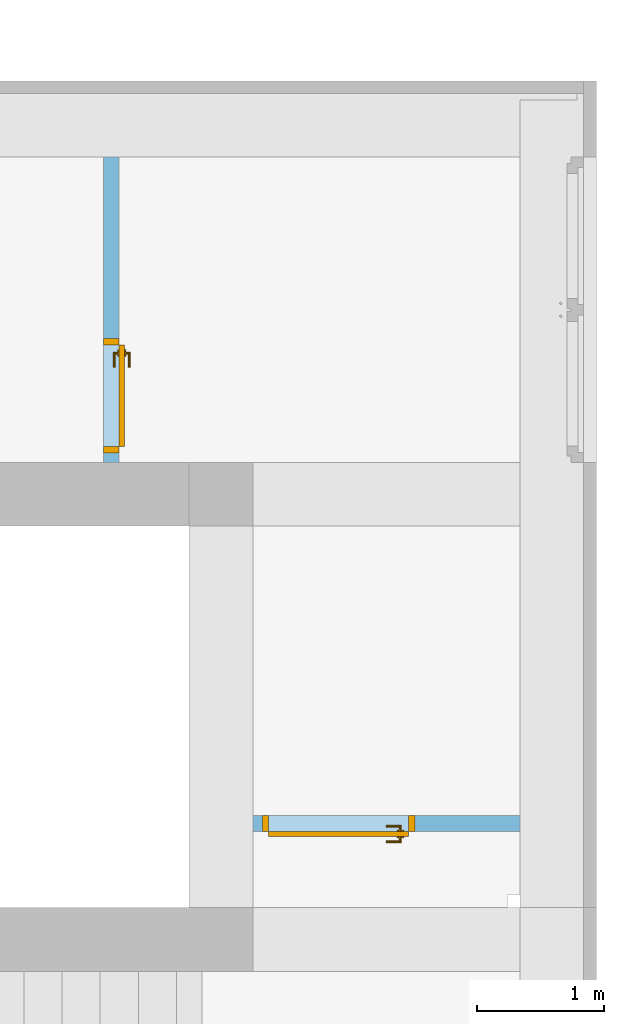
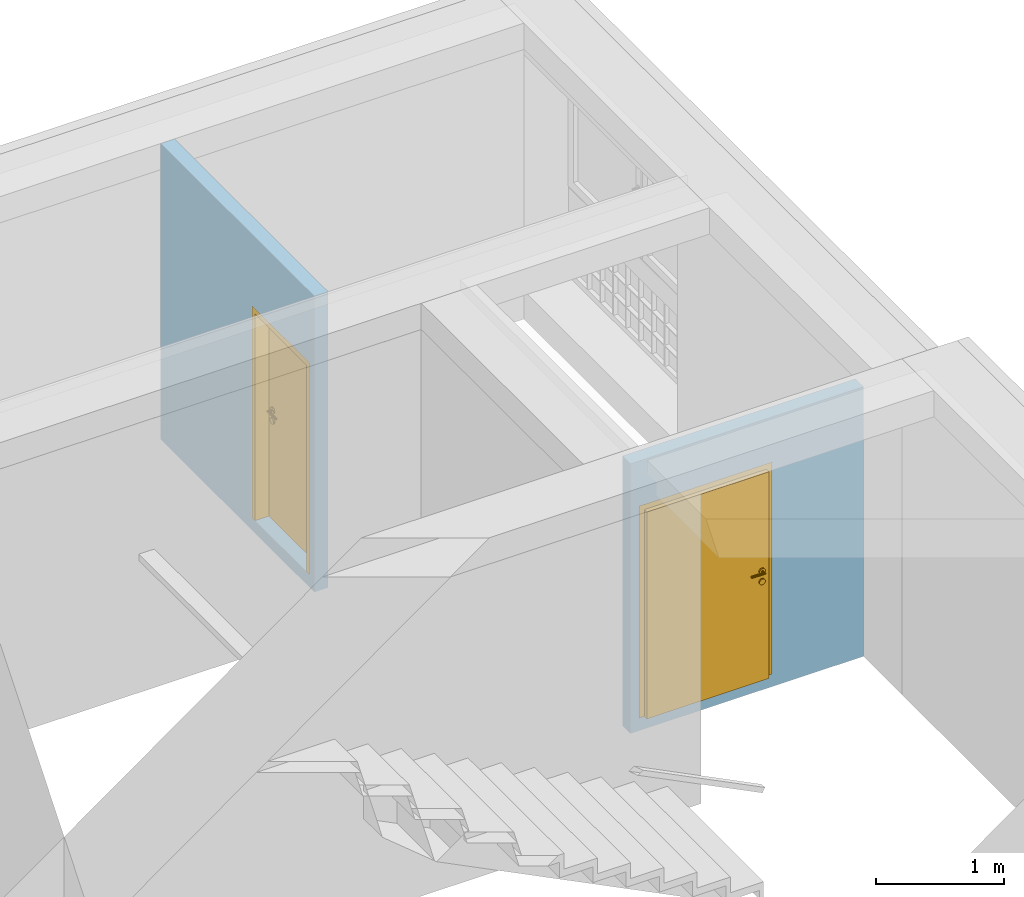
# One storey, part 13 of 27: 2 doors, 2 openings, plus 2 elements that do not belong to this part.
"""IFC4 building model written with IfcOpenShell, lengths in metres."""

from ifc_helpers import new_model, entity, si_unit, converted_unit, derived_unit, frame, frame_2d, origin, origin_with_axes, place, context, subcontext, project, spatial, polyline, rectangle, outline, extrude, closed_shell, open_shell, surface_model, source, transform, mapped, material, layer, layer_set, layer_usage, type_object, element, fill, save


model = new_model("IFC4")

# Units and contexts
model_context = context("Model", 3, precision=1e-05, world=origin())
body_context = subcontext(model_context, "Body", "Model", "MODEL_VIEW")
ifc_project = project(units=[si_unit("LENGTHUNIT", "METRE"), si_unit("AREAUNIT", "SQUARE_METRE"), si_unit("VOLUMEUNIT", "CUBIC_METRE"), si_unit("MASSUNIT", "GRAM", prefix="KILO"), converted_unit("PLANEANGLEUNIT", "DEGREE", entity("IfcPlaneAngleMeasure", 0.0174532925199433), si_unit("PLANEANGLEUNIT", "RADIAN"), dimensions=[0, 0, 0, 0, 0, 0, 0]), derived_unit("THERMALTRANSMITTANCEUNIT", [(si_unit("POWERUNIT", "WATT"), 1), (si_unit("THERMODYNAMICTEMPERATUREUNIT", "KELVIN"), -1), (si_unit("LENGTHUNIT", "METRE"), -2)]), derived_unit("VOLUMETRICFLOWRATEUNIT", [(si_unit("LENGTHUNIT", "METRE"), 3), (converted_unit("TIMEUNIT", "hour", entity("IfcTimeMeasure", 3600.0), si_unit("TIMEUNIT", "SECOND"), dimensions=[0, 0, 1, 0, 0, 0, 0]), -1), (si_unit("LENGTHUNIT", "METRE"), -1)])], contexts=[model_context])

# Site, building, storey
site_placement = place(None, origin())
site = spatial("IfcSite", under=ifc_project, at=site_placement, Name="3. ASŘ", CompositionType="ELEMENT")
building_placement = place(site_placement, origin())
building = spatial("IfcBuilding", under=site, at=building_placement, Name="Pavilon C", CompositionType="ELEMENT")
storey_placement = place(building_placement, frame((0.0, 0.0, 10.5)))
storey = spatial("IfcBuildingStorey", under=building, at=storey_placement, Name="Půdorys 4.NP", CompositionType="ELEMENT", Elevation=10.5)

# Wall, opening, door
ifc_material_1 = material(Name="ZDIVO Z CDm")
ifc_layer_1 = layer(ifc_material_1, 0.125)
ifc_layer_set_1 = layer_set([ifc_layer_1])
ifc_layer_usage_1 = layer_usage(ifc_layer_set_1, "AXIS2", "POSITIVE", 0.0)
wall_1_placement = place(storey_placement, frame((-4.79999999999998, 10.35, -0.42), z_axis=(0.0, 0.0, 1.0), x_axis=(0.0, -1.0, 0.0)))
wall_1 = element("IfcWall", 1, at=wall_1_placement, inside=storey, material=ifc_layer_usage_1, Name="ZDIVO Z CDm", context=body_context, shape_type="SweptSolid", body=[
    extrude(rectangle(XDim=2.4, YDim=0.125, at=frame_2d((1.2, 0.0625), x_axis=(1.0, 0.0))), origin_with_axes(), (0.0, 0.0, 1.0), 2.82),
])
opening_1_placement = place(wall_1_placement, frame((2.325, 0.125, 0.12), z_axis=(0.0, -1.0, 0.0), x_axis=(0.0, 0.0, 1.0)))
opening_1 = element("IfcOpeningElement", 2, at=opening_1_placement, cuts=wall_1, Name="Dveřní otvor", ObjectType="Opening", context=body_context, shape_type="SweptSolid", body=[
    extrude(outline(polyline([(0.0, 0.9), (2.02, 0.9), (2.02, 0.0), (0.0, 0.0), (0.0, 0.9)])), origin_with_axes(), (0.0, 0.0, 1.0), 0.125),
])
door_type_1 = type_object("IfcDoorType", Name="D101", OperationType="NOTDEFINED", ParameterTakesPrecedence=False, PredefinedType="DOOR")
shared_shape_1 = source(origin_with_axes(), body_context, "Body", "SurfaceModel", [
    surface_model("IfcShellBasedSurfaceModel", [(0.0, 0.125, 2.02), (0.0, 0.125, -7.65404249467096e-18), (0.05, 0.125, -7.65404249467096e-18), (0.05, 0.125, 2.02), (0.0, 0.0, 7.65404249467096e-18), (0.0, 2.41584530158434e-16, 2.02), (0.05, 2.41584530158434e-16, 2.02), (0.05, 0.0, 7.65404249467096e-18)], [closed_shell([[[0, 1, 2, 3]], [[4, 5, 6, 7]], [[1, 0, 5, 4]], [[2, 1, 4, 7]], [[3, 2, 7, 6]], [[0, 3, 6, 5]]], orient=[[False], [False], [False], [False], [False], [False]])]),
    surface_model("IfcShellBasedSurfaceModel", [(0.85, 0.125, 2.02), (0.85, 0.125, -7.65404249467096e-18), (0.9, 0.125, -7.65404249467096e-18), (0.9, 0.125, 2.02), (0.85, 0.0, 7.65404249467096e-18), (0.85, 2.41584530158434e-16, 2.02), (0.9, 2.41584530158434e-16, 2.02), (0.9, 0.0, 7.65404249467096e-18)], [closed_shell([[[0, 1, 2, 3]], [[4, 5, 6, 7]], [[1, 0, 5, 4]], [[2, 1, 4, 7]], [[3, 2, 7, 6]], [[0, 3, 6, 5]]], orient=[[False], [False], [False], [False], [False], [False]])]),
    surface_model("IfcShellBasedSurfaceModel", [(0.05, 0.125, 2.02), (0.05, 0.125, 1.97), (0.85, 0.125, 1.97), (0.85, 0.125, 2.02), (0.05, 2.41584530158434e-16, 1.97), (0.05, 2.41584530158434e-16, 2.02), (0.85, 2.41584530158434e-16, 2.02), (0.85, 2.41584530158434e-16, 1.97)], [closed_shell([[[0, 1, 2, 3]], [[4, 5, 6, 7]], [[1, 0, 5, 4]], [[2, 1, 4, 7]], [[3, 2, 7, 6]], [[0, 3, 6, 5]]], orient=[[False], [False], [False], [False], [False], [False]])]),
    surface_model("IfcShellBasedSurfaceModel", [(0.05, 0.165, 1.97), (0.05, 0.165, -1.25526296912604e-17), (0.85, 0.165, -1.25526296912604e-17), (0.85, 0.165, 1.97), (0.05, 0.125, -7.65404249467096e-18), (0.05, 0.125, 1.97), (0.85, 0.125, 1.97), (0.85, 0.125, -7.65404249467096e-18)], [closed_shell([[[0, 1, 2, 3]], [[4, 5, 6, 7]], [[1, 0, 5, 4]], [[2, 1, 4, 7]], [[3, 2, 7, 6]], [[0, 3, 6, 5]]], orient=[[False], [False], [False], [False], [False], [False]])]),
    surface_model("IfcShellBasedSurfaceModel", [(0.808815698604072, 0.125, 0.93625), (0.8125, 0.125, 0.95), (0.808815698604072, 0.125, 0.96375), (0.79875, 0.125, 0.973815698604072), (0.785, 0.125, 0.9775), (0.77125, 0.125, 0.973815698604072), (0.761184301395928, 0.125, 0.96375), (0.7575, 0.125, 0.95), (0.761184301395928, 0.125, 0.93625), (0.77125, 0.125, 0.926184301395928), (0.785, 0.125, 0.9225), (0.79875, 0.125, 0.926184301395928), (0.8125, 0.1125, 0.95), (0.808815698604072, 0.1125, 0.93625), (0.79875, 0.1125, 0.926184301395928), (0.785, 0.1125, 0.9225), (0.77125, 0.1125, 0.926184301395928), (0.761184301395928, 0.1125, 0.93625), (0.7575, 0.1125, 0.95), (0.761184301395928, 0.1125, 0.96375), (0.77125, 0.1125, 0.973815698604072), (0.785, 0.1125, 0.9775), (0.79875, 0.1125, 0.973815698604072), (0.808815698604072, 0.1125, 0.96375)], [closed_shell([[[0, 1, 2, 3, 4, 5, 6, 7, 8, 9, 10, 11]], [[12, 13, 14, 15, 16, 17, 18, 19, 20, 21, 22, 23]], [[1, 0, 13, 12]], [[2, 1, 12, 23]], [[3, 2, 23, 22]], [[4, 3, 22, 21]], [[5, 4, 21, 20]], [[6, 5, 20, 19]], [[7, 6, 19, 18]], [[8, 7, 18, 17]], [[9, 8, 17, 16]], [[10, 9, 16, 15]], [[11, 10, 15, 14]], [[0, 11, 14, 13]]], orient=[[False], [False], [False], [False], [False], [False], [False], [False], [False], [False], [False], [False], [False], [False]])]),
    surface_model("IfcShellBasedSurfaceModel", [(0.808815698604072, 0.125, 1.03625), (0.8125, 0.125, 1.05), (0.808815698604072, 0.125, 1.06375), (0.79875, 0.125, 1.07381569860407), (0.785, 0.125, 1.0775), (0.77125, 0.125, 1.07381569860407), (0.761184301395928, 0.125, 1.06375), (0.7575, 0.125, 1.05), (0.761184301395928, 0.125, 1.03625), (0.77125, 0.125, 1.02618430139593), (0.785, 0.125, 1.0225), (0.79875, 0.125, 1.02618430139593), (0.8125, 0.1125, 1.05), (0.808815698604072, 0.1125, 1.03625), (0.79875, 0.1125, 1.02618430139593), (0.785, 0.1125, 1.0225), (0.77125, 0.1125, 1.02618430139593), (0.761184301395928, 0.1125, 1.03625), (0.7575, 0.1125, 1.05), (0.761184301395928, 0.1125, 1.06375), (0.77125, 0.1125, 1.07381569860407), (0.785, 0.1125, 1.0775), (0.79875, 0.1125, 1.07381569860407), (0.808815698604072, 0.1125, 1.06375)], [closed_shell([[[0, 1, 2, 3, 4, 5, 6, 7, 8, 9, 10, 11]], [[12, 13, 14, 15, 16, 17, 18, 19, 20, 21, 22, 23]], [[1, 0, 13, 12]], [[2, 1, 12, 23]], [[3, 2, 23, 22]], [[4, 3, 22, 21]], [[5, 4, 21, 20]], [[6, 5, 20, 19]], [[7, 6, 19, 18]], [[8, 7, 18, 17]], [[9, 8, 17, 16]], [[10, 9, 16, 15]], [[11, 10, 15, 14]], [[0, 11, 14, 13]]], orient=[[False], [False], [False], [False], [False], [False], [False], [False], [False], [False], [False], [False], [False], [False]])]),
    surface_model("IfcShellBasedSurfaceModel", [(0.785, 0.125, 1.06), (0.78, 0.125, 1.05866025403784), (0.776339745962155, 0.125, 1.055), (0.775, 0.125, 1.05), (0.776339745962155, 0.125, 1.045), (0.78, 0.125, 1.04133974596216), (0.785, 0.125, 1.04), (0.79, 0.125, 1.04133974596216), (0.793660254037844, 0.125, 1.045), (0.795, 0.125, 1.05), (0.793660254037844, 0.125, 1.055), (0.79, 0.125, 1.05866025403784), (0.79, 0.0800000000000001, 1.05866025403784), (0.785, 0.0850000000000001, 1.06), (0.793660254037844, 0.0763397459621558, 1.055), (0.795, 0.0750000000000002, 1.05), (0.793660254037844, 0.0763397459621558, 1.045), (0.79, 0.0800000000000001, 1.04133974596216), (0.785, 0.0850000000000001, 1.04), (0.78, 0.0900000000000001, 1.04133974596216), (0.776339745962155, 0.0936602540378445, 1.045), (0.775, 0.0950000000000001, 1.05), (0.776339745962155, 0.0936602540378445, 1.055), (0.78, 0.0900000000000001, 1.05866025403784), (0.67, 0.0800000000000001, 1.05866025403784), (0.67, 0.0850000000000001, 1.06), (0.67, 0.0763397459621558, 1.055), (0.67, 0.0750000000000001, 1.05), (0.67, 0.0763397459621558, 1.045), (0.67, 0.0800000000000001, 1.04133974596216), (0.67, 0.0850000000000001, 1.04), (0.67, 0.0900000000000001, 1.04133974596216), (0.67, 0.0936602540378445, 1.045), (0.67, 0.0950000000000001, 1.05), (0.67, 0.0936602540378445, 1.055), (0.67, 0.0900000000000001, 1.05866025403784)], [open_shell([[[0, 1, 2, 3, 4, 5, 6, 7, 8, 9, 10, 11]], [[0, 11, 12, 13]], [[11, 10, 14, 12]], [[10, 9, 15, 14]], [[9, 8, 16, 15]], [[8, 7, 17, 16]], [[7, 6, 18, 17]], [[6, 5, 19, 18]], [[5, 4, 20, 19]], [[4, 3, 21, 20]], [[3, 2, 22, 21]], [[2, 1, 23, 22]], [[1, 0, 13, 23]], [[13, 12, 24, 25]], [[12, 14, 26, 24]], [[14, 15, 27, 26]], [[15, 16, 28, 27]], [[16, 17, 29, 28]], [[17, 18, 30, 29]], [[18, 19, 31, 30]], [[19, 20, 32, 31]], [[20, 21, 33, 32]], [[21, 22, 34, 33]], [[22, 23, 35, 34]], [[23, 13, 25, 35]]], orient=[[False], [False], [False], [False], [False], [False], [False], [False], [False], [False], [False], [False], [False], [False], [False], [False], [False], [False], [False], [False], [False], [False], [False], [False], [False]])]),
    surface_model("IfcShellBasedSurfaceModel", [(0.808815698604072, 0.165, 0.93625), (0.79875, 0.165, 0.926184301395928), (0.785, 0.165, 0.9225), (0.77125, 0.165, 0.926184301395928), (0.761184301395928, 0.165, 0.93625), (0.7575, 0.165, 0.95), (0.761184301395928, 0.165, 0.96375), (0.77125, 0.165, 0.973815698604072), (0.785, 0.165, 0.9775), (0.79875, 0.165, 0.973815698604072), (0.808815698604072, 0.165, 0.96375), (0.8125, 0.165, 0.95), (0.8125, 0.1775, 0.95), (0.808815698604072, 0.1775, 0.96375), (0.79875, 0.1775, 0.973815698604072), (0.785, 0.1775, 0.9775), (0.77125, 0.1775, 0.973815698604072), (0.761184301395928, 0.1775, 0.96375), (0.7575, 0.1775, 0.95), (0.761184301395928, 0.1775, 0.93625), (0.77125, 0.1775, 0.926184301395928), (0.785, 0.1775, 0.9225), (0.79875, 0.1775, 0.926184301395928), (0.808815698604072, 0.1775, 0.93625)], [closed_shell([[[0, 1, 2, 3, 4, 5, 6, 7, 8, 9, 10, 11]], [[12, 13, 14, 15, 16, 17, 18, 19, 20, 21, 22, 23]], [[11, 12, 23, 0]], [[10, 13, 12, 11]], [[9, 14, 13, 10]], [[8, 15, 14, 9]], [[7, 16, 15, 8]], [[6, 17, 16, 7]], [[5, 18, 17, 6]], [[4, 19, 18, 5]], [[3, 20, 19, 4]], [[2, 21, 20, 3]], [[1, 22, 21, 2]], [[0, 23, 22, 1]]], orient=[[False], [False], [False], [False], [False], [False], [False], [False], [False], [False], [False], [False], [False], [False]])]),
    surface_model("IfcShellBasedSurfaceModel", [(0.808815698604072, 0.165, 1.03625), (0.79875, 0.165, 1.02618430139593), (0.785, 0.165, 1.0225), (0.77125, 0.165, 1.02618430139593), (0.761184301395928, 0.165, 1.03625), (0.7575, 0.165, 1.05), (0.761184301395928, 0.165, 1.06375), (0.77125, 0.165, 1.07381569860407), (0.785, 0.165, 1.0775), (0.79875, 0.165, 1.07381569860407), (0.808815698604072, 0.165, 1.06375), (0.8125, 0.165, 1.05), (0.8125, 0.1775, 1.05), (0.808815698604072, 0.1775, 1.06375), (0.79875, 0.1775, 1.07381569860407), (0.785, 0.1775, 1.0775), (0.77125, 0.1775, 1.07381569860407), (0.761184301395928, 0.1775, 1.06375), (0.7575, 0.1775, 1.05), (0.761184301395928, 0.1775, 1.03625), (0.77125, 0.1775, 1.02618430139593), (0.785, 0.1775, 1.0225), (0.79875, 0.1775, 1.02618430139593), (0.808815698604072, 0.1775, 1.03625)], [closed_shell([[[0, 1, 2, 3, 4, 5, 6, 7, 8, 9, 10, 11]], [[12, 13, 14, 15, 16, 17, 18, 19, 20, 21, 22, 23]], [[11, 12, 23, 0]], [[10, 13, 12, 11]], [[9, 14, 13, 10]], [[8, 15, 14, 9]], [[7, 16, 15, 8]], [[6, 17, 16, 7]], [[5, 18, 17, 6]], [[4, 19, 18, 5]], [[3, 20, 19, 4]], [[2, 21, 20, 3]], [[1, 22, 21, 2]], [[0, 23, 22, 1]]], orient=[[False], [False], [False], [False], [False], [False], [False], [False], [False], [False], [False], [False], [False], [False]])]),
    surface_model("IfcShellBasedSurfaceModel", [(0.785, 0.165, 1.06), (0.79, 0.165, 1.05866025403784), (0.793660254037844, 0.165, 1.055), (0.795, 0.165, 1.05), (0.793660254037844, 0.165, 1.045), (0.79, 0.165, 1.04133974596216), (0.785, 0.165, 1.04), (0.78, 0.165, 1.04133974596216), (0.776339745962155, 0.165, 1.045), (0.775, 0.165, 1.05), (0.776339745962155, 0.165, 1.055), (0.78, 0.165, 1.05866025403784), (0.785, 0.205, 1.06), (0.79, 0.21, 1.05866025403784), (0.793660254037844, 0.213660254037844, 1.055), (0.795, 0.215, 1.05), (0.793660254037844, 0.213660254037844, 1.045), (0.79, 0.21, 1.04133974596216), (0.785, 0.205, 1.04), (0.78, 0.2, 1.04133974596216), (0.776339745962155, 0.196339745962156, 1.045), (0.775, 0.195, 1.05), (0.776339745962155, 0.196339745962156, 1.055), (0.78, 0.2, 1.05866025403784), (0.67, 0.205, 1.06), (0.67, 0.21, 1.05866025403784), (0.67, 0.213660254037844, 1.055), (0.67, 0.215, 1.05), (0.67, 0.213660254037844, 1.045), (0.67, 0.21, 1.04133974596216), (0.67, 0.205, 1.04), (0.67, 0.2, 1.04133974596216), (0.67, 0.196339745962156, 1.045), (0.67, 0.195, 1.05), (0.67, 0.196339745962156, 1.055), (0.67, 0.2, 1.05866025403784)], [open_shell([[[0, 1, 2, 3, 4, 5, 6, 7, 8, 9, 10, 11]], [[0, 12, 13, 1]], [[1, 13, 14, 2]], [[2, 14, 15, 3]], [[3, 15, 16, 4]], [[4, 16, 17, 5]], [[5, 17, 18, 6]], [[6, 18, 19, 7]], [[7, 19, 20, 8]], [[8, 20, 21, 9]], [[9, 21, 22, 10]], [[10, 22, 23, 11]], [[11, 23, 12, 0]], [[12, 24, 25, 13]], [[13, 25, 26, 14]], [[14, 26, 27, 15]], [[15, 27, 28, 16]], [[16, 28, 29, 17]], [[17, 29, 30, 18]], [[18, 30, 31, 19]], [[19, 31, 32, 20]], [[20, 32, 33, 21]], [[21, 33, 34, 22]], [[22, 34, 35, 23]], [[23, 35, 24, 12]]], orient=[[False], [False], [False], [False], [False], [False], [False], [False], [False], [False], [False], [False], [False], [False], [False], [False], [False], [False], [False], [False], [False], [False], [False], [False], [False]])]),
])
door_1_placement = place(opening_1_placement, frame((0.0, -1.81898940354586e-15, 0.124999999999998), z_axis=(1.0, 0.0, 0.0), x_axis=(0.0, 1.0, -2.44929359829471e-16)))
door_1 = element("IfcDoor", 3, at=door_1_placement, inside=storey, type_object=door_type_1, Name="D101", OverallHeight=2.02, OverallWidth=0.9, context=body_context, shape_type="MappedRepresentation", body=[
    mapped(shared_shape_1, transform((0.0, 0.0, 0.0), x_axis=(1.0, 0.0, 0.0), y_axis=(0.0, -1.0, 0.0), z_axis=(0.0, 0.0, 1.0), scale=1.0)),
])
fill(opening_1, door_1)

ifc_material_2 = material(Name="ZDIVO Z CDm")
ifc_layer_2 = layer(ifc_material_2, 0.125000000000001)
ifc_layer_set_2 = layer_set([ifc_layer_2])
ifc_layer_usage_2 = layer_usage(ifc_layer_set_2, "AXIS2", "POSITIVE", 0.0)
wall_2_placement = place(storey_placement, frame((-3.62499999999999, 5.05, -0.42)))
wall_2 = element("IfcWall", 4, at=wall_2_placement, inside=storey, material=ifc_layer_usage_2, Name="ZDIVO Z CDm", context=body_context, shape_type="SweptSolid", body=[
    extrude(rectangle(XDim=2.1, YDim=0.125000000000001, at=frame_2d((1.05, 0.0625000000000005), x_axis=(1.0, 0.0))), origin_with_axes(), (0.0, 0.0, 1.0), 2.57),
])
opening_2_placement = place(wall_2_placement, frame((0.075, 0.0, 0.12), z_axis=(0.0, 1.0, 0.0), x_axis=(0.0, 0.0, 1.0)))
opening_2 = element("IfcOpeningElement", 5, at=opening_2_placement, cuts=wall_2, Name="Dveřní otvor", ObjectType="Opening", context=body_context, shape_type="SweptSolid", body=[
    extrude(outline(polyline([(0.0, 1.2), (2.02, 1.2), (2.02, 0.0), (0.0, 0.0), (0.0, 1.2)])), origin_with_axes(), (0.0, 0.0, 1.0), 0.125000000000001),
])
door_type_2 = type_object("IfcDoorType", Name="D101", OperationType="NOTDEFINED", ParameterTakesPrecedence=False, PredefinedType="DOOR")
shared_shape_2 = source(origin_with_axes(), body_context, "Body", "SurfaceModel", [
    surface_model("IfcShellBasedSurfaceModel", [(0.0, 0.125, 2.02), (0.0, 0.125, -7.65404249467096e-18), (0.05, 0.125, -7.65404249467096e-18), (0.05, 0.125, 2.02), (0.0, 0.0, 7.65404249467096e-18), (0.0, 2.41584530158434e-16, 2.02), (0.05, 2.41584530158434e-16, 2.02), (0.05, 0.0, 7.65404249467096e-18)], [closed_shell([[[0, 1, 2, 3]], [[4, 5, 6, 7]], [[1, 0, 5, 4]], [[2, 1, 4, 7]], [[3, 2, 7, 6]], [[0, 3, 6, 5]]], orient=[[False], [False], [False], [False], [False], [False]])]),
    surface_model("IfcShellBasedSurfaceModel", [(1.15, 0.125, 2.02), (1.15, 0.125, -7.65404249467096e-18), (1.2, 0.125, -7.65404249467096e-18), (1.2, 0.125, 2.02), (1.15, 0.0, 7.65404249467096e-18), (1.15, 2.41584530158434e-16, 2.02), (1.2, 2.41584530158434e-16, 2.02), (1.2, 0.0, 7.65404249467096e-18)], [closed_shell([[[0, 1, 2, 3]], [[4, 5, 6, 7]], [[1, 0, 5, 4]], [[2, 1, 4, 7]], [[3, 2, 7, 6]], [[0, 3, 6, 5]]], orient=[[False], [False], [False], [False], [False], [False]])]),
    surface_model("IfcShellBasedSurfaceModel", [(0.05, 0.125, 2.02), (0.05, 0.125, 1.97), (1.15, 0.125, 1.97), (1.15, 0.125, 2.02), (0.05, 2.41584530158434e-16, 1.97), (0.05, 2.41584530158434e-16, 2.02), (1.15, 2.41584530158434e-16, 2.02), (1.15, 2.41584530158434e-16, 1.97)], [closed_shell([[[0, 1, 2, 3]], [[4, 5, 6, 7]], [[1, 0, 5, 4]], [[2, 1, 4, 7]], [[3, 2, 7, 6]], [[0, 3, 6, 5]]], orient=[[False], [False], [False], [False], [False], [False]])]),
    surface_model("IfcShellBasedSurfaceModel", [(0.05, 0.165, 1.97), (0.05, 0.165, -1.25526296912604e-17), (1.15, 0.165, -1.25526296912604e-17), (1.15, 0.165, 1.97), (0.05, 0.125, -7.65404249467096e-18), (0.05, 0.125, 1.97), (1.15, 0.125, 1.97), (1.15, 0.125, -7.65404249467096e-18)], [closed_shell([[[0, 1, 2, 3]], [[4, 5, 6, 7]], [[1, 0, 5, 4]], [[2, 1, 4, 7]], [[3, 2, 7, 6]], [[0, 3, 6, 5]]], orient=[[False], [False], [False], [False], [False], [False]])]),
    surface_model("IfcShellBasedSurfaceModel", [(1.10881569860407, 0.125, 0.93625), (1.1125, 0.125, 0.95), (1.10881569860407, 0.125, 0.96375), (1.09875, 0.125, 0.973815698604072), (1.085, 0.125, 0.9775), (1.07125, 0.125, 0.973815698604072), (1.06118430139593, 0.125, 0.96375), (1.0575, 0.125, 0.95), (1.06118430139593, 0.125, 0.93625), (1.07125, 0.125, 0.926184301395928), (1.085, 0.125, 0.9225), (1.09875, 0.125, 0.926184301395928), (1.1125, 0.1125, 0.95), (1.10881569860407, 0.1125, 0.93625), (1.09875, 0.1125, 0.926184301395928), (1.085, 0.1125, 0.9225), (1.07125, 0.1125, 0.926184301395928), (1.06118430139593, 0.1125, 0.93625), (1.0575, 0.1125, 0.95), (1.06118430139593, 0.1125, 0.96375), (1.07125, 0.1125, 0.973815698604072), (1.085, 0.1125, 0.9775), (1.09875, 0.1125, 0.973815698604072), (1.10881569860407, 0.1125, 0.96375)], [closed_shell([[[0, 1, 2, 3, 4, 5, 6, 7, 8, 9, 10, 11]], [[12, 13, 14, 15, 16, 17, 18, 19, 20, 21, 22, 23]], [[1, 0, 13, 12]], [[2, 1, 12, 23]], [[3, 2, 23, 22]], [[4, 3, 22, 21]], [[5, 4, 21, 20]], [[6, 5, 20, 19]], [[7, 6, 19, 18]], [[8, 7, 18, 17]], [[9, 8, 17, 16]], [[10, 9, 16, 15]], [[11, 10, 15, 14]], [[0, 11, 14, 13]]], orient=[[False], [False], [False], [False], [False], [False], [False], [False], [False], [False], [False], [False], [False], [False]])]),
    surface_model("IfcShellBasedSurfaceModel", [(1.10881569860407, 0.125, 1.03625), (1.1125, 0.125, 1.05), (1.10881569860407, 0.125, 1.06375), (1.09875, 0.125, 1.07381569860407), (1.085, 0.125, 1.0775), (1.07125, 0.125, 1.07381569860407), (1.06118430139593, 0.125, 1.06375), (1.0575, 0.125, 1.05), (1.06118430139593, 0.125, 1.03625), (1.07125, 0.125, 1.02618430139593), (1.085, 0.125, 1.0225), (1.09875, 0.125, 1.02618430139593), (1.1125, 0.1125, 1.05), (1.10881569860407, 0.1125, 1.03625), (1.09875, 0.1125, 1.02618430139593), (1.085, 0.1125, 1.0225), (1.07125, 0.1125, 1.02618430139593), (1.06118430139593, 0.1125, 1.03625), (1.0575, 0.1125, 1.05), (1.06118430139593, 0.1125, 1.06375), (1.07125, 0.1125, 1.07381569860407), (1.085, 0.1125, 1.0775), (1.09875, 0.1125, 1.07381569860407), (1.10881569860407, 0.1125, 1.06375)], [closed_shell([[[0, 1, 2, 3, 4, 5, 6, 7, 8, 9, 10, 11]], [[12, 13, 14, 15, 16, 17, 18, 19, 20, 21, 22, 23]], [[1, 0, 13, 12]], [[2, 1, 12, 23]], [[3, 2, 23, 22]], [[4, 3, 22, 21]], [[5, 4, 21, 20]], [[6, 5, 20, 19]], [[7, 6, 19, 18]], [[8, 7, 18, 17]], [[9, 8, 17, 16]], [[10, 9, 16, 15]], [[11, 10, 15, 14]], [[0, 11, 14, 13]]], orient=[[False], [False], [False], [False], [False], [False], [False], [False], [False], [False], [False], [False], [False], [False]])]),
    surface_model("IfcShellBasedSurfaceModel", [(1.085, 0.125, 1.06), (1.08, 0.125, 1.05866025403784), (1.07633974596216, 0.125, 1.055), (1.075, 0.125, 1.05), (1.07633974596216, 0.125, 1.045), (1.08, 0.125, 1.04133974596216), (1.085, 0.125, 1.04), (1.09, 0.125, 1.04133974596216), (1.09366025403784, 0.125, 1.045), (1.095, 0.125, 1.05), (1.09366025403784, 0.125, 1.055), (1.09, 0.125, 1.05866025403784), (1.09, 0.0800000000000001, 1.05866025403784), (1.085, 0.0850000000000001, 1.06), (1.09366025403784, 0.0763397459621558, 1.055), (1.095, 0.0750000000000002, 1.05), (1.09366025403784, 0.0763397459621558, 1.045), (1.09, 0.0800000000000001, 1.04133974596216), (1.085, 0.0850000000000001, 1.04), (1.08, 0.0900000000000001, 1.04133974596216), (1.07633974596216, 0.0936602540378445, 1.045), (1.075, 0.0950000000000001, 1.05), (1.07633974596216, 0.0936602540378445, 1.055), (1.08, 0.0900000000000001, 1.05866025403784), (0.97, 0.0800000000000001, 1.05866025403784), (0.97, 0.0850000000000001, 1.06), (0.97, 0.0763397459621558, 1.055), (0.97, 0.0750000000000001, 1.05), (0.97, 0.0763397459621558, 1.045), (0.97, 0.0800000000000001, 1.04133974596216), (0.97, 0.0850000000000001, 1.04), (0.97, 0.0900000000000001, 1.04133974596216), (0.97, 0.0936602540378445, 1.045), (0.97, 0.0950000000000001, 1.05), (0.97, 0.0936602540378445, 1.055), (0.97, 0.0900000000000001, 1.05866025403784)], [open_shell([[[0, 1, 2, 3, 4, 5, 6, 7, 8, 9, 10, 11]], [[0, 11, 12, 13]], [[11, 10, 14, 12]], [[10, 9, 15, 14]], [[9, 8, 16, 15]], [[8, 7, 17, 16]], [[7, 6, 18, 17]], [[6, 5, 19, 18]], [[5, 4, 20, 19]], [[4, 3, 21, 20]], [[3, 2, 22, 21]], [[2, 1, 23, 22]], [[1, 0, 13, 23]], [[13, 12, 24, 25]], [[12, 14, 26, 24]], [[14, 15, 27, 26]], [[15, 16, 28, 27]], [[16, 17, 29, 28]], [[17, 18, 30, 29]], [[18, 19, 31, 30]], [[19, 20, 32, 31]], [[20, 21, 33, 32]], [[21, 22, 34, 33]], [[22, 23, 35, 34]], [[23, 13, 25, 35]]], orient=[[False], [False], [False], [False], [False], [False], [False], [False], [False], [False], [False], [False], [False], [False], [False], [False], [False], [False], [False], [False], [False], [False], [False], [False], [False]])]),
    surface_model("IfcShellBasedSurfaceModel", [(1.10881569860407, 0.165, 0.93625), (1.09875, 0.165, 0.926184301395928), (1.085, 0.165, 0.9225), (1.07125, 0.165, 0.926184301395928), (1.06118430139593, 0.165, 0.93625), (1.0575, 0.165, 0.95), (1.06118430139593, 0.165, 0.96375), (1.07125, 0.165, 0.973815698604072), (1.085, 0.165, 0.9775), (1.09875, 0.165, 0.973815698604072), (1.10881569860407, 0.165, 0.96375), (1.1125, 0.165, 0.95), (1.1125, 0.1775, 0.95), (1.10881569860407, 0.1775, 0.96375), (1.09875, 0.1775, 0.973815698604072), (1.085, 0.1775, 0.9775), (1.07125, 0.1775, 0.973815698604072), (1.06118430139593, 0.1775, 0.96375), (1.0575, 0.1775, 0.95), (1.06118430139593, 0.1775, 0.93625), (1.07125, 0.1775, 0.926184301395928), (1.085, 0.1775, 0.9225), (1.09875, 0.1775, 0.926184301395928), (1.10881569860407, 0.1775, 0.93625)], [closed_shell([[[0, 1, 2, 3, 4, 5, 6, 7, 8, 9, 10, 11]], [[12, 13, 14, 15, 16, 17, 18, 19, 20, 21, 22, 23]], [[11, 12, 23, 0]], [[10, 13, 12, 11]], [[9, 14, 13, 10]], [[8, 15, 14, 9]], [[7, 16, 15, 8]], [[6, 17, 16, 7]], [[5, 18, 17, 6]], [[4, 19, 18, 5]], [[3, 20, 19, 4]], [[2, 21, 20, 3]], [[1, 22, 21, 2]], [[0, 23, 22, 1]]], orient=[[False], [False], [False], [False], [False], [False], [False], [False], [False], [False], [False], [False], [False], [False]])]),
    surface_model("IfcShellBasedSurfaceModel", [(1.10881569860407, 0.165, 1.03625), (1.09875, 0.165, 1.02618430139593), (1.085, 0.165, 1.0225), (1.07125, 0.165, 1.02618430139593), (1.06118430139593, 0.165, 1.03625), (1.0575, 0.165, 1.05), (1.06118430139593, 0.165, 1.06375), (1.07125, 0.165, 1.07381569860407), (1.085, 0.165, 1.0775), (1.09875, 0.165, 1.07381569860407), (1.10881569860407, 0.165, 1.06375), (1.1125, 0.165, 1.05), (1.1125, 0.1775, 1.05), (1.10881569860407, 0.1775, 1.06375), (1.09875, 0.1775, 1.07381569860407), (1.085, 0.1775, 1.0775), (1.07125, 0.1775, 1.07381569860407), (1.06118430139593, 0.1775, 1.06375), (1.0575, 0.1775, 1.05), (1.06118430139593, 0.1775, 1.03625), (1.07125, 0.1775, 1.02618430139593), (1.085, 0.1775, 1.0225), (1.09875, 0.1775, 1.02618430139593), (1.10881569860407, 0.1775, 1.03625)], [closed_shell([[[0, 1, 2, 3, 4, 5, 6, 7, 8, 9, 10, 11]], [[12, 13, 14, 15, 16, 17, 18, 19, 20, 21, 22, 23]], [[11, 12, 23, 0]], [[10, 13, 12, 11]], [[9, 14, 13, 10]], [[8, 15, 14, 9]], [[7, 16, 15, 8]], [[6, 17, 16, 7]], [[5, 18, 17, 6]], [[4, 19, 18, 5]], [[3, 20, 19, 4]], [[2, 21, 20, 3]], [[1, 22, 21, 2]], [[0, 23, 22, 1]]], orient=[[False], [False], [False], [False], [False], [False], [False], [False], [False], [False], [False], [False], [False], [False]])]),
    surface_model("IfcShellBasedSurfaceModel", [(1.085, 0.165, 1.06), (1.09, 0.165, 1.05866025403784), (1.09366025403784, 0.165, 1.055), (1.095, 0.165, 1.05), (1.09366025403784, 0.165, 1.045), (1.09, 0.165, 1.04133974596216), (1.085, 0.165, 1.04), (1.08, 0.165, 1.04133974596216), (1.07633974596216, 0.165, 1.045), (1.075, 0.165, 1.05), (1.07633974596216, 0.165, 1.055), (1.08, 0.165, 1.05866025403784), (1.085, 0.205, 1.06), (1.09, 0.21, 1.05866025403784), (1.09366025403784, 0.213660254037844, 1.055), (1.095, 0.215, 1.05), (1.09366025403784, 0.213660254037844, 1.045), (1.09, 0.21, 1.04133974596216), (1.085, 0.205, 1.04), (1.08, 0.2, 1.04133974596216), (1.07633974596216, 0.196339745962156, 1.045), (1.075, 0.195, 1.05), (1.07633974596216, 0.196339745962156, 1.055), (1.08, 0.2, 1.05866025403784), (0.97, 0.205, 1.06), (0.97, 0.21, 1.05866025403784), (0.97, 0.213660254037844, 1.055), (0.97, 0.215, 1.05), (0.97, 0.213660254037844, 1.045), (0.97, 0.21, 1.04133974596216), (0.97, 0.205, 1.04), (0.97, 0.2, 1.04133974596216), (0.97, 0.196339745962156, 1.045), (0.97, 0.195, 1.05), (0.97, 0.196339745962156, 1.055), (0.97, 0.2, 1.05866025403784)], [open_shell([[[0, 1, 2, 3, 4, 5, 6, 7, 8, 9, 10, 11]], [[0, 12, 13, 1]], [[1, 13, 14, 2]], [[2, 14, 15, 3]], [[3, 15, 16, 4]], [[4, 16, 17, 5]], [[5, 17, 18, 6]], [[6, 18, 19, 7]], [[7, 19, 20, 8]], [[8, 20, 21, 9]], [[9, 21, 22, 10]], [[10, 22, 23, 11]], [[11, 23, 12, 0]], [[12, 24, 25, 13]], [[13, 25, 26, 14]], [[14, 26, 27, 15]], [[15, 27, 28, 16]], [[16, 28, 29, 17]], [[17, 29, 30, 18]], [[18, 30, 31, 19]], [[19, 31, 32, 20]], [[20, 32, 33, 21]], [[21, 33, 34, 22]], [[22, 34, 35, 23]], [[23, 35, 24, 12]]], orient=[[False], [False], [False], [False], [False], [False], [False], [False], [False], [False], [False], [False], [False], [False], [False], [False], [False], [False], [False], [False], [False], [False], [False], [False], [False]])]),
])
door_2_placement = place(opening_2_placement, frame((0.0, 0.0, 0.125000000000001), z_axis=(1.0, 0.0, 0.0), x_axis=(0.0, 1.0, -1.22464679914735e-16)))
door_2 = element("IfcDoor", 6, at=door_2_placement, inside=storey, type_object=door_type_2, Name="D101", OverallHeight=2.02, OverallWidth=1.2, context=body_context, shape_type="MappedRepresentation", body=[
    mapped(shared_shape_2, transform((0.0, 0.0, 0.0), x_axis=(1.0, 0.0, 0.0), y_axis=(0.0, -1.0, 0.0), z_axis=(0.0, 0.0, 1.0), scale=1.0)),
])
fill(opening_2, door_2)

save(model, "model.ifc")
